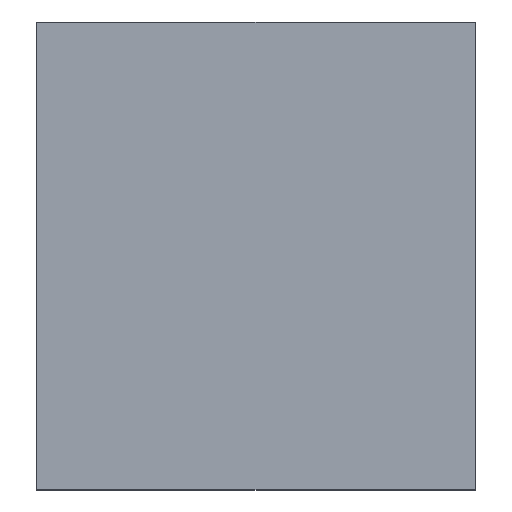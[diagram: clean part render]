
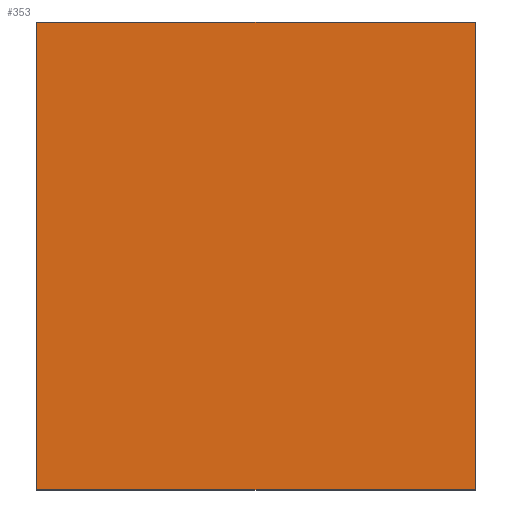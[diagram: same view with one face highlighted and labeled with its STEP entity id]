
A CAD part, top view. The second image highlights one B-rep face of the part: STEP entity #353.
In plain terms, the highlighted planar face has unit normal (0, 0, 1).
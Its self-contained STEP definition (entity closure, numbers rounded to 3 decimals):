
#39 = VERTEX_POINT('',#40);
#40 = CARTESIAN_POINT('',(-9.,-9.35,3.35));
#47 = PLANE('',#48);
#48 = AXIS2_PLACEMENT_3D('',#49,#50,#51);
#49 = CARTESIAN_POINT('',(-9.,-9.35,0.));
#50 = DIRECTION('',(0.,1.,0.));
#51 = DIRECTION('',(1.,0.,0.));
#59 = PLANE('',#60);
#60 = AXIS2_PLACEMENT_3D('',#61,#62,#63);
#61 = CARTESIAN_POINT('',(-9.,9.85,0.));
#62 = DIRECTION('',(1.,0.,-0.));
#63 = DIRECTION('',(0.,-1.,0.));
#71 = EDGE_CURVE('',#39,#72,#74,.T.);
#72 = VERTEX_POINT('',#73);
#73 = CARTESIAN_POINT('',(9.,-9.35,3.35));
#74 = SURFACE_CURVE('',#75,(#79,#86),.PCURVE_S1.);
#75 = LINE('',#76,#77);
#76 = CARTESIAN_POINT('',(-9.,-9.35,3.35));
#77 = VECTOR('',#78,1.);
#78 = DIRECTION('',(1.,0.,0.));
#79 = PCURVE('',#47,#80);
#80 = DEFINITIONAL_REPRESENTATION('',(#81),#85);
#81 = LINE('',#82,#83);
#82 = CARTESIAN_POINT('',(0.,-3.35));
#83 = VECTOR('',#84,1.);
#84 = DIRECTION('',(1.,0.));
#85 = ( GEOMETRIC_REPRESENTATION_CONTEXT(2) 
PARAMETRIC_REPRESENTATION_CONTEXT() REPRESENTATION_CONTEXT('2D SPACE',''
  ) );
#86 = PCURVE('',#87,#92);
#87 = PLANE('',#88);
#88 = AXIS2_PLACEMENT_3D('',#89,#90,#91);
#89 = CARTESIAN_POINT('',(0.,0.25,3.35));
#90 = DIRECTION('',(0.,0.,1.));
#91 = DIRECTION('',(1.,0.,0.));
#92 = DEFINITIONAL_REPRESENTATION('',(#93),#97);
#93 = LINE('',#94,#95);
#94 = CARTESIAN_POINT('',(-9.,-9.6));
#95 = VECTOR('',#96,1.);
#96 = DIRECTION('',(1.,0.));
#97 = ( GEOMETRIC_REPRESENTATION_CONTEXT(2) 
PARAMETRIC_REPRESENTATION_CONTEXT() REPRESENTATION_CONTEXT('2D SPACE',''
  ) );
#115 = PLANE('',#116);
#116 = AXIS2_PLACEMENT_3D('',#117,#118,#119);
#117 = CARTESIAN_POINT('',(9.,-9.35,0.));
#118 = DIRECTION('',(-1.,0.,0.));
#119 = DIRECTION('',(0.,1.,0.));
#157 = EDGE_CURVE('',#72,#158,#160,.T.);
#158 = VERTEX_POINT('',#159);
#159 = CARTESIAN_POINT('',(9.,9.85,3.35));
#160 = SURFACE_CURVE('',#161,(#165,#172),.PCURVE_S1.);
#161 = LINE('',#162,#163);
#162 = CARTESIAN_POINT('',(9.,-9.35,3.35));
#163 = VECTOR('',#164,1.);
#164 = DIRECTION('',(0.,1.,0.));
#165 = PCURVE('',#115,#166);
#166 = DEFINITIONAL_REPRESENTATION('',(#167),#171);
#167 = LINE('',#168,#169);
#168 = CARTESIAN_POINT('',(0.,-3.35));
#169 = VECTOR('',#170,1.);
#170 = DIRECTION('',(1.,0.));
#171 = ( GEOMETRIC_REPRESENTATION_CONTEXT(2) 
PARAMETRIC_REPRESENTATION_CONTEXT() REPRESENTATION_CONTEXT('2D SPACE',''
  ) );
#172 = PCURVE('',#87,#173);
#173 = DEFINITIONAL_REPRESENTATION('',(#174),#178);
#174 = LINE('',#175,#176);
#175 = CARTESIAN_POINT('',(9.,-9.6));
#176 = VECTOR('',#177,1.);
#177 = DIRECTION('',(0.,1.));
#178 = ( GEOMETRIC_REPRESENTATION_CONTEXT(2) 
PARAMETRIC_REPRESENTATION_CONTEXT() REPRESENTATION_CONTEXT('2D SPACE',''
  ) );
#196 = PLANE('',#197);
#197 = AXIS2_PLACEMENT_3D('',#198,#199,#200);
#198 = CARTESIAN_POINT('',(9.,9.85,0.));
#199 = DIRECTION('',(0.,-1.,0.));
#200 = DIRECTION('',(-1.,0.,0.));
#233 = EDGE_CURVE('',#158,#234,#236,.T.);
#234 = VERTEX_POINT('',#235);
#235 = CARTESIAN_POINT('',(-9.,9.85,3.35));
#236 = SURFACE_CURVE('',#237,(#241,#248),.PCURVE_S1.);
#237 = LINE('',#238,#239);
#238 = CARTESIAN_POINT('',(9.,9.85,3.35));
#239 = VECTOR('',#240,1.);
#240 = DIRECTION('',(-1.,0.,0.));
#241 = PCURVE('',#196,#242);
#242 = DEFINITIONAL_REPRESENTATION('',(#243),#247);
#243 = LINE('',#244,#245);
#244 = CARTESIAN_POINT('',(0.,-3.35));
#245 = VECTOR('',#246,1.);
#246 = DIRECTION('',(1.,0.));
#247 = ( GEOMETRIC_REPRESENTATION_CONTEXT(2) 
PARAMETRIC_REPRESENTATION_CONTEXT() REPRESENTATION_CONTEXT('2D SPACE',''
  ) );
#248 = PCURVE('',#87,#249);
#249 = DEFINITIONAL_REPRESENTATION('',(#250),#254);
#250 = LINE('',#251,#252);
#251 = CARTESIAN_POINT('',(9.,9.6));
#252 = VECTOR('',#253,1.);
#253 = DIRECTION('',(-1.,0.));
#254 = ( GEOMETRIC_REPRESENTATION_CONTEXT(2) 
PARAMETRIC_REPRESENTATION_CONTEXT() REPRESENTATION_CONTEXT('2D SPACE',''
  ) );
#304 = EDGE_CURVE('',#234,#39,#305,.T.);
#305 = SURFACE_CURVE('',#306,(#310,#317),.PCURVE_S1.);
#306 = LINE('',#307,#308);
#307 = CARTESIAN_POINT('',(-9.,9.85,3.35));
#308 = VECTOR('',#309,1.);
#309 = DIRECTION('',(0.,-1.,0.));
#310 = PCURVE('',#59,#311);
#311 = DEFINITIONAL_REPRESENTATION('',(#312),#316);
#312 = LINE('',#313,#314);
#313 = CARTESIAN_POINT('',(0.,-3.35));
#314 = VECTOR('',#315,1.);
#315 = DIRECTION('',(1.,0.));
#316 = ( GEOMETRIC_REPRESENTATION_CONTEXT(2) 
PARAMETRIC_REPRESENTATION_CONTEXT() REPRESENTATION_CONTEXT('2D SPACE',''
  ) );
#317 = PCURVE('',#87,#318);
#318 = DEFINITIONAL_REPRESENTATION('',(#319),#323);
#319 = LINE('',#320,#321);
#320 = CARTESIAN_POINT('',(-9.,9.6));
#321 = VECTOR('',#322,1.);
#322 = DIRECTION('',(0.,-1.));
#323 = ( GEOMETRIC_REPRESENTATION_CONTEXT(2) 
PARAMETRIC_REPRESENTATION_CONTEXT() REPRESENTATION_CONTEXT('2D SPACE',''
  ) );
#353 = ADVANCED_FACE('',(#354),#87,.T.);
#354 = FACE_BOUND('',#355,.T.);
#355 = EDGE_LOOP('',(#356,#357,#358,#359));
#356 = ORIENTED_EDGE('',*,*,#71,.T.);
#357 = ORIENTED_EDGE('',*,*,#157,.T.);
#358 = ORIENTED_EDGE('',*,*,#233,.T.);
#359 = ORIENTED_EDGE('',*,*,#304,.T.);
